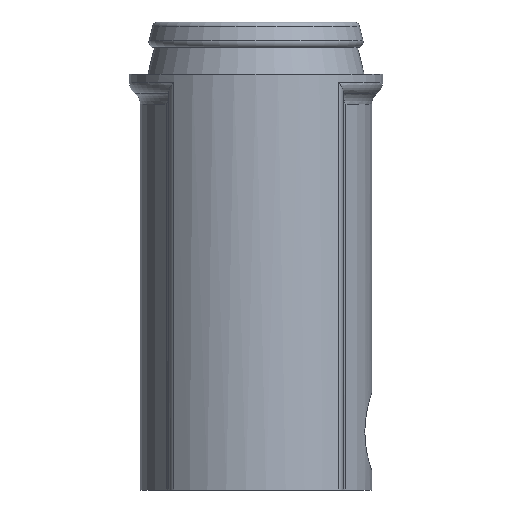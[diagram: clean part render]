
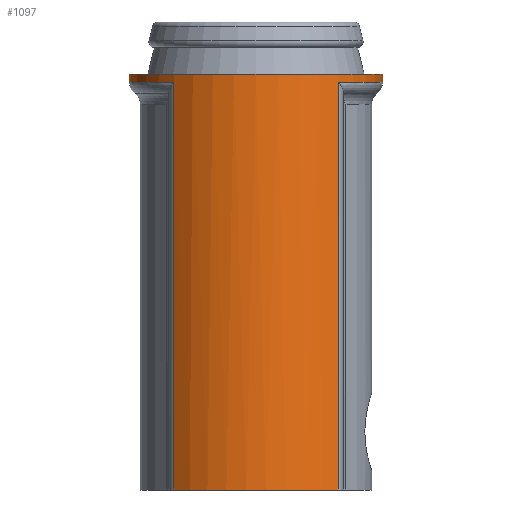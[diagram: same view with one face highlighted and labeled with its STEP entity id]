
A CAD part, left-side view. The second image highlights one B-rep face of the part: STEP entity #1097.
In plain terms, the highlighted cylindrical face has radius 22.85 mm (diameter 45.7 mm), a full revolution.
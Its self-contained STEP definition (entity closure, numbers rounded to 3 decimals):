
#76=CYLINDRICAL_SURFACE('',#1241,22.85);
#159=LINE('',#2066,#223);
#162=LINE('',#2088,#226);
#164=LINE('',#2122,#228);
#165=LINE('',#2125,#229);
#166=LINE('',#2128,#230);
#223=VECTOR('',#1536,10.);
#226=VECTOR('',#1541,10.);
#228=VECTOR('',#1553,22.85);
#229=VECTOR('',#1556,10.);
#230=VECTOR('',#1559,10.);
#286=FACE_OUTER_BOUND('',#350,.T.);
#350=EDGE_LOOP('',(#976,#977,#978,#979,#980,#981,#982,#983,#984,#985,#986,
#987));
#407=CIRCLE('',#1201,22.85);
#413=CIRCLE('',#1207,22.85);
#414=CIRCLE('',#1208,22.85);
#426=CIRCLE('',#1239,22.85);
#427=CIRCLE('',#1242,22.85);
#428=CIRCLE('',#1243,22.85);
#510=VERTEX_POINT('',#2000);
#512=VERTEX_POINT('',#2003);
#517=VERTEX_POINT('',#2013);
#518=VERTEX_POINT('',#2015);
#519=VERTEX_POINT('',#2017);
#526=VERTEX_POINT('',#2065);
#530=VERTEX_POINT('',#2087);
#533=VERTEX_POINT('',#2121);
#534=VERTEX_POINT('',#2124);
#535=VERTEX_POINT('',#2126);
#647=EDGE_CURVE('',#510,#512,#407,.T.);
#653=EDGE_CURVE('',#517,#518,#413,.T.);
#654=EDGE_CURVE('',#518,#519,#414,.T.);
#678=EDGE_CURVE('',#526,#510,#159,.T.);
#683=EDGE_CURVE('',#519,#530,#162,.T.);
#687=EDGE_CURVE('',#530,#526,#426,.T.);
#690=EDGE_CURVE('',#518,#533,#164,.T.);
#691=EDGE_CURVE('',#533,#533,#427,.T.);
#692=EDGE_CURVE('',#534,#517,#165,.T.);
#693=EDGE_CURVE('',#535,#534,#428,.T.);
#694=EDGE_CURVE('',#512,#535,#166,.T.);
#976=ORIENTED_EDGE('',*,*,#678,.F.);
#977=ORIENTED_EDGE('',*,*,#687,.F.);
#978=ORIENTED_EDGE('',*,*,#683,.F.);
#979=ORIENTED_EDGE('',*,*,#654,.F.);
#980=ORIENTED_EDGE('',*,*,#690,.T.);
#981=ORIENTED_EDGE('',*,*,#691,.T.);
#982=ORIENTED_EDGE('',*,*,#690,.F.);
#983=ORIENTED_EDGE('',*,*,#653,.F.);
#984=ORIENTED_EDGE('',*,*,#692,.F.);
#985=ORIENTED_EDGE('',*,*,#693,.F.);
#986=ORIENTED_EDGE('',*,*,#694,.F.);
#987=ORIENTED_EDGE('',*,*,#647,.F.);
#1097=ADVANCED_FACE('',(#286),#76,.T.);
#1201=AXIS2_PLACEMENT_3D('',#2004,#1453,#1454);
#1207=AXIS2_PLACEMENT_3D('',#2016,#1465,#1466);
#1208=AXIS2_PLACEMENT_3D('',#2018,#1467,#1468);
#1239=AXIS2_PLACEMENT_3D('',#2106,#1546,#1547);
#1241=AXIS2_PLACEMENT_3D('',#2120,#1551,#1552);
#1242=AXIS2_PLACEMENT_3D('',#2123,#1554,#1555);
#1243=AXIS2_PLACEMENT_3D('',#2127,#1557,#1558);
#1453=DIRECTION('center_axis',(0.,0.,-1.));
#1454=DIRECTION('ref_axis',(1.,0.,0.));
#1465=DIRECTION('center_axis',(0.,0.,-1.));
#1466=DIRECTION('ref_axis',(1.,0.,0.));
#1467=DIRECTION('center_axis',(0.,0.,-1.));
#1468=DIRECTION('ref_axis',(1.,0.,0.));
#1536=DIRECTION('',(0.,0.,-1.));
#1541=DIRECTION('',(0.,0.,1.));
#1546=DIRECTION('center_axis',(0.,0.,-1.));
#1547=DIRECTION('ref_axis',(0.,-1.,0.));
#1551=DIRECTION('center_axis',(0.,0.,-1.));
#1552=DIRECTION('ref_axis',(-1.,0.,0.));
#1553=DIRECTION('',(0.,0.,1.));
#1554=DIRECTION('center_axis',(0.,0.,-1.));
#1555=DIRECTION('ref_axis',(1.,0.,0.));
#1556=DIRECTION('',(0.,0.,-1.));
#1557=DIRECTION('center_axis',(0.,0.,-1.));
#1558=DIRECTION('ref_axis',(0.,1.,0.));
#1559=DIRECTION('',(0.,0.,1.));
#2000=CARTESIAN_POINT('',(-17.362,-14.855,-75.));
#2003=CARTESIAN_POINT('',(-17.362,14.855,-75.));
#2004=CARTESIAN_POINT('Origin',(0.,0.,-75.));
#2013=CARTESIAN_POINT('',(17.362,14.855,-75.));
#2015=CARTESIAN_POINT('',(22.85,0.,-75.));
#2016=CARTESIAN_POINT('Origin',(0.,0.,-75.));
#2017=CARTESIAN_POINT('',(17.362,-14.855,-75.));
#2018=CARTESIAN_POINT('Origin',(0.,0.,-75.));
#2065=CARTESIAN_POINT('',(-17.362,-14.855,-1.449));
#2066=CARTESIAN_POINT('',(-17.362,-14.855,-37.5));
#2087=CARTESIAN_POINT('',(17.362,-14.855,-1.449));
#2088=CARTESIAN_POINT('',(17.362,-14.855,-37.5));
#2106=CARTESIAN_POINT('Origin',(0.,0.,-1.449));
#2120=CARTESIAN_POINT('Origin',(0.,0.,-37.5));
#2121=CARTESIAN_POINT('',(22.85,0.,0.));
#2122=CARTESIAN_POINT('',(22.85,0.,-37.5));
#2123=CARTESIAN_POINT('Origin',(0.,0.,0.));
#2124=CARTESIAN_POINT('',(17.362,14.855,-1.449));
#2125=CARTESIAN_POINT('',(17.362,14.855,-37.5));
#2126=CARTESIAN_POINT('',(-17.362,14.855,-1.449));
#2127=CARTESIAN_POINT('Origin',(0.,0.,-1.449));
#2128=CARTESIAN_POINT('',(-17.362,14.855,-37.5));
